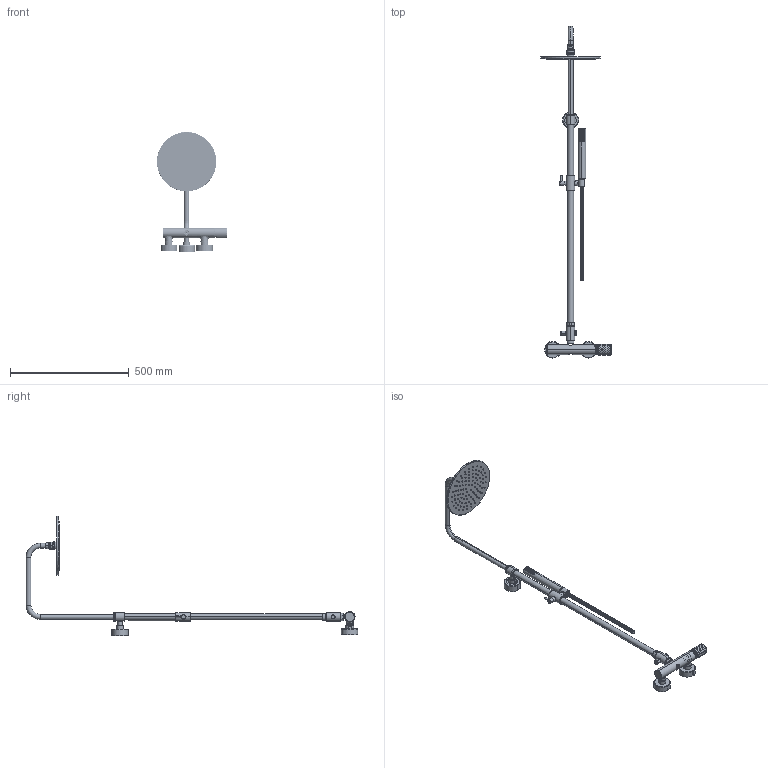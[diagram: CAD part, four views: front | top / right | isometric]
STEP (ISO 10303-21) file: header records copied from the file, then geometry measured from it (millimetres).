
FILE_DESCRIPTION((''),'2;1');
FILE_NAME('F3035_2X_FILE_3D','2018-09-27T',('ivanv'),(''),'CREO PARAMETRIC BY PTC INC, 2016260','CREO PARAMETRIC BY PTC INC, 2016260','');
FILE_SCHEMA(('CONFIG_CONTROL_DESIGN'));
Products named in the file (1): F3035_2X_FILE_3D
Bounding box: 295.6 x 1397.55 x 505.25 mm (x, y, z)
Volume: 1082167.1 mm3; surface area: 611228.4 mm2
Topology: 19 solids, 21 shells, 3056 faces, 7414 edges, 4738 vertices
Faces by surface type: cylinder 1439, plane 964, cone 275, torus 191, bspline 183, sphere 4
Entity records: 228100 total; most frequent: CARTESIAN_POINT 159057, ORIENTED_EDGE 14702, DIRECTION 13506, EDGE_CURVE 7351, AXIS2_PLACEMENT_3D 5282, VERTEX_POINT 4738, EDGE_LOOP 3509, FACE_OUTER_BOUND 3056
